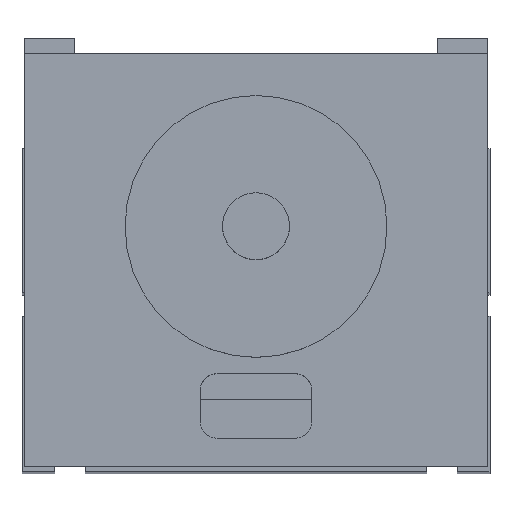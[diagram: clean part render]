
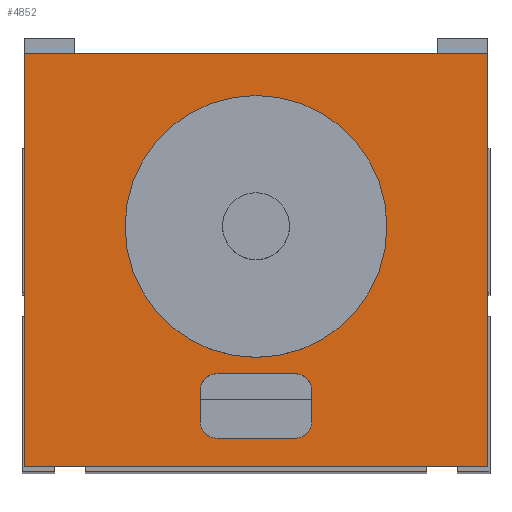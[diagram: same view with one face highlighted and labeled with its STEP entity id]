
A CAD part, top view. The second image highlights one B-rep face of the part: STEP entity #4852.
In plain terms, the highlighted planar face has unit normal (0, 0, 1).
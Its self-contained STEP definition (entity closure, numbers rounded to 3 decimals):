
#7 = VERTEX_POINT ( 'NONE', #1721 ) ;
#9 = EDGE_LOOP ( 'NONE', ( #4989, #38 ) ) ;
#29 = EDGE_CURVE ( 'NONE', #184, #159, #5068, .T. ) ;
#38 = ORIENTED_EDGE ( 'NONE', *, *, #158, .F. ) ;
#158 = EDGE_CURVE ( 'NONE', #159, #184, #322, .T. ) ;
#159 = VERTEX_POINT ( 'NONE', #416 ) ;
#184 = VERTEX_POINT ( 'NONE', #450 ) ;
#237 = ORIENTED_EDGE ( 'NONE', *, *, #247, .T. ) ;
#239 = EDGE_CURVE ( 'NONE', #5033, #7, #2052, .T. ) ;
#241 = EDGE_CURVE ( 'NONE', #242, #5033, #2046, .T. ) ;
#242 = VERTEX_POINT ( 'NONE', #2047 ) ;
#244 = ORIENTED_EDGE ( 'NONE', *, *, #239, .T. ) ;
#247 = EDGE_CURVE ( 'NONE', #7, #250, #2048, .T. ) ;
#250 = VERTEX_POINT ( 'NONE', #2092 ) ;
#322 = CIRCLE ( 'NONE', #340, 23.5 ) ;
#337 = CARTESIAN_POINT ( 'NONE',  ( 41.5, 43., 30. ) ) ;
#338 = DIRECTION ( 'NONE',  ( 0., 0., 1. ) ) ;
#339 = DIRECTION ( 'NONE',  ( -1., 0., 0. ) ) ;
#340 = AXIS2_PLACEMENT_3D ( 'NONE', #337, #338, #339 ) ;
#416 = CARTESIAN_POINT ( 'NONE',  ( 65., 43., 30. ) ) ;
#450 = CARTESIAN_POINT ( 'NONE',  ( 18., 43., 30. ) ) ;
#1721 = CARTESIAN_POINT ( 'NONE',  ( 83., 74., 30. ) ) ;
#1927 = ORIENTED_EDGE ( 'NONE', *, *, #4974, .F. ) ;
#1941 = EDGE_LOOP ( 'NONE', ( #4950, #4957, #4954, #4951, #1927, #4969, #4970, #4877 ) ) ;
#2043 = DIRECTION ( 'NONE',  ( 1., 0., 0. ) ) ;
#2044 = VECTOR ( 'NONE', #2043, 1000. ) ;
#2045 = CARTESIAN_POINT ( 'NONE',  ( 0., 0., 30. ) ) ;
#2046 = LINE ( 'NONE', #2045, #2044 ) ;
#2047 = CARTESIAN_POINT ( 'NONE',  ( 0., 0., 30. ) ) ;
#2048 = LINE ( 'NONE', #2097, #2095 ) ;
#2049 = DIRECTION ( 'NONE',  ( 0., 1., 0. ) ) ;
#2050 = VECTOR ( 'NONE', #2049, 1000. ) ;
#2051 = CARTESIAN_POINT ( 'NONE',  ( 83., 0., 30. ) ) ;
#2052 = LINE ( 'NONE', #2051, #2050 ) ;
#2092 = CARTESIAN_POINT ( 'NONE',  ( 0., 74., 30. ) ) ;
#2094 = DIRECTION ( 'NONE',  ( -1., 0., 0. ) ) ;
#2095 = VECTOR ( 'NONE', #2094, 1000. ) ;
#2097 = CARTESIAN_POINT ( 'NONE',  ( 0., 74., 30. ) ) ;
#4423 = FACE_OUTER_BOUND ( 'NONE', #5005, .T. ) ;
#4426 = PLANE ( 'NONE',  #4436 ) ;
#4427 = FACE_BOUND ( 'NONE', #9, .T. ) ;
#4428 = FACE_BOUND ( 'NONE', #1941, .T. ) ;
#4436 = AXIS2_PLACEMENT_3D ( 'NONE', #4472, #4471, #4470 ) ;
#4470 = DIRECTION ( 'NONE',  ( -1., 0., 0. ) ) ;
#4471 = DIRECTION ( 'NONE',  ( 0., 0., -1. ) ) ;
#4472 = CARTESIAN_POINT ( 'NONE',  ( 0., 74., 30. ) ) ;
#4575 = DIRECTION ( 'NONE',  ( -1., 0., 0. ) ) ;
#4576 = DIRECTION ( 'NONE',  ( 0., 0., 1. ) ) ;
#4577 = CARTESIAN_POINT ( 'NONE',  ( 34.5, 13.6, 30. ) ) ;
#4578 = AXIS2_PLACEMENT_3D ( 'NONE', #4577, #4576, #4575 ) ;
#4579 = AXIS2_PLACEMENT_3D ( 'NONE', #4624, #4623, #4618 ) ;
#4580 = CARTESIAN_POINT ( 'NONE',  ( 48.5, 16.6, 30. ) ) ;
#4586 = CARTESIAN_POINT ( 'NONE',  ( 34.5, 16.6, 30. ) ) ;
#4591 = CARTESIAN_POINT ( 'NONE',  ( 34.5, 5., 30. ) ) ;
#4592 = CARTESIAN_POINT ( 'NONE',  ( 31.5, 13.6, 30. ) ) ;
#4597 = CIRCLE ( 'NONE', #4578, 3. ) ;
#4598 = LINE ( 'NONE', #4629, #4628 ) ;
#4604 = CIRCLE ( 'NONE', #4666, 3. ) ;
#4605 = DIRECTION ( 'NONE',  ( 1., 0., 0. ) ) ;
#4606 = DIRECTION ( 'NONE',  ( 0., 0., 1. ) ) ;
#4607 = CARTESIAN_POINT ( 'NONE',  ( 48.5, 13.6, 30. ) ) ;
#4608 = AXIS2_PLACEMENT_3D ( 'NONE', #4607, #4606, #4605 ) ;
#4609 = CARTESIAN_POINT ( 'NONE',  ( 51.5, 13.6, 30. ) ) ;
#4611 = CARTESIAN_POINT ( 'NONE',  ( 51.5, 8., 30. ) ) ;
#4618 = DIRECTION ( 'NONE',  ( 1., 0., 0. ) ) ;
#4620 = CIRCLE ( 'NONE', #4579, 3. ) ;
#4623 = DIRECTION ( 'NONE',  ( 0., 0., 1. ) ) ;
#4624 = CARTESIAN_POINT ( 'NONE',  ( 34.5, 8., 30. ) ) ;
#4626 = CIRCLE ( 'NONE', #4608, 3. ) ;
#4627 = DIRECTION ( 'NONE',  ( -1., 0., 0. ) ) ;
#4628 = VECTOR ( 'NONE', #4627, 1000. ) ;
#4629 = CARTESIAN_POINT ( 'NONE',  ( 34.5, 16.6, 30. ) ) ;
#4650 = DIRECTION ( 'NONE',  ( 1., 0., 0. ) ) ;
#4651 = VECTOR ( 'NONE', #4650, 1000. ) ;
#4655 = CARTESIAN_POINT ( 'NONE',  ( 34.5, 5., 30. ) ) ;
#4656 = LINE ( 'NONE', #4655, #4651 ) ;
#4657 = DIRECTION ( 'NONE',  ( 0., 1., 0. ) ) ;
#4658 = VECTOR ( 'NONE', #4657, 1000. ) ;
#4659 = CARTESIAN_POINT ( 'NONE',  ( 51.5, 8., 30. ) ) ;
#4660 = CARTESIAN_POINT ( 'NONE',  ( 48.5, 5., 30. ) ) ;
#4661 = DIRECTION ( 'NONE',  ( -1., 0., 0. ) ) ;
#4662 = DIRECTION ( 'NONE',  ( 0., 0., 1. ) ) ;
#4663 = CARTESIAN_POINT ( 'NONE',  ( 48.5, 8., 30. ) ) ;
#4666 = AXIS2_PLACEMENT_3D ( 'NONE', #4663, #4662, #4661 ) ;
#4667 = LINE ( 'NONE', #4659, #4658 ) ;
#4669 = DIRECTION ( 'NONE',  ( 0., -1., 0. ) ) ;
#4670 = VECTOR ( 'NONE', #4669, 1000. ) ;
#4671 = CARTESIAN_POINT ( 'NONE',  ( 31.5, 8., 30. ) ) ;
#4683 = LINE ( 'NONE', #4671, #4670 ) ;
#4701 = CARTESIAN_POINT ( 'NONE',  ( 31.5, 8., 30. ) ) ;
#4734 = CARTESIAN_POINT ( 'NONE',  ( 83., 0., 30. ) ) ;
#4735 = DIRECTION ( 'NONE',  ( 0., -1., 0. ) ) ;
#4736 = VECTOR ( 'NONE', #4735, 1000. ) ;
#4740 = CARTESIAN_POINT ( 'NONE',  ( 0., 0., 30. ) ) ;
#4747 = LINE ( 'NONE', #4740, #4736 ) ;
#4852 = ADVANCED_FACE ( 'NONE', ( #4428, #4423, #4427 ), #4426, .F. ) ;
#4877 = ORIENTED_EDGE ( 'NONE', *, *, #5004, .F. ) ;
#4945 = VERTEX_POINT ( 'NONE', #4591 ) ;
#4947 = EDGE_CURVE ( 'NONE', #4948, #4949, #4597, .T. ) ;
#4948 = VERTEX_POINT ( 'NONE', #4586 ) ;
#4949 = VERTEX_POINT ( 'NONE', #4592 ) ;
#4950 = ORIENTED_EDGE ( 'NONE', *, *, #4947, .F. ) ;
#4951 = ORIENTED_EDGE ( 'NONE', *, *, #4975, .F. ) ;
#4953 = EDGE_CURVE ( 'NONE', #4955, #4948, #4598, .T. ) ;
#4954 = ORIENTED_EDGE ( 'NONE', *, *, #4968, .F. ) ;
#4955 = VERTEX_POINT ( 'NONE', #4580 ) ;
#4957 = ORIENTED_EDGE ( 'NONE', *, *, #4953, .F. ) ;
#4965 = EDGE_CURVE ( 'NONE', #5020, #4945, #4620, .T. ) ;
#4968 = EDGE_CURVE ( 'NONE', #4977, #4955, #4626, .T. ) ;
#4969 = ORIENTED_EDGE ( 'NONE', *, *, #4979, .F. ) ;
#4970 = ORIENTED_EDGE ( 'NONE', *, *, #4965, .F. ) ;
#4971 = ORIENTED_EDGE ( 'NONE', *, *, #5026, .T. ) ;
#4974 = EDGE_CURVE ( 'NONE', #4976, #4978, #4604, .T. ) ;
#4975 = EDGE_CURVE ( 'NONE', #4978, #4977, #4667, .T. ) ;
#4976 = VERTEX_POINT ( 'NONE', #4660 ) ;
#4977 = VERTEX_POINT ( 'NONE', #4609 ) ;
#4978 = VERTEX_POINT ( 'NONE', #4611 ) ;
#4979 = EDGE_CURVE ( 'NONE', #4945, #4976, #4656, .T. ) ;
#4989 = ORIENTED_EDGE ( 'NONE', *, *, #29, .F. ) ;
#5004 = EDGE_CURVE ( 'NONE', #4949, #5020, #4683, .T. ) ;
#5005 = EDGE_LOOP ( 'NONE', ( #4971, #5030, #244, #237 ) ) ;
#5020 = VERTEX_POINT ( 'NONE', #4701 ) ;
#5026 = EDGE_CURVE ( 'NONE', #250, #242, #4747, .T. ) ;
#5030 = ORIENTED_EDGE ( 'NONE', *, *, #241, .T. ) ;
#5033 = VERTEX_POINT ( 'NONE', #4734 ) ;
#5066 = DIRECTION ( 'NONE',  ( -1., 0., 0. ) ) ;
#5067 = DIRECTION ( 'NONE',  ( 0., 0., 1. ) ) ;
#5068 = CIRCLE ( 'NONE', #5072, 23.5 ) ;
#5069 = CARTESIAN_POINT ( 'NONE',  ( 41.5, 43., 30. ) ) ;
#5072 = AXIS2_PLACEMENT_3D ( 'NONE', #5069, #5067, #5066 ) ;
